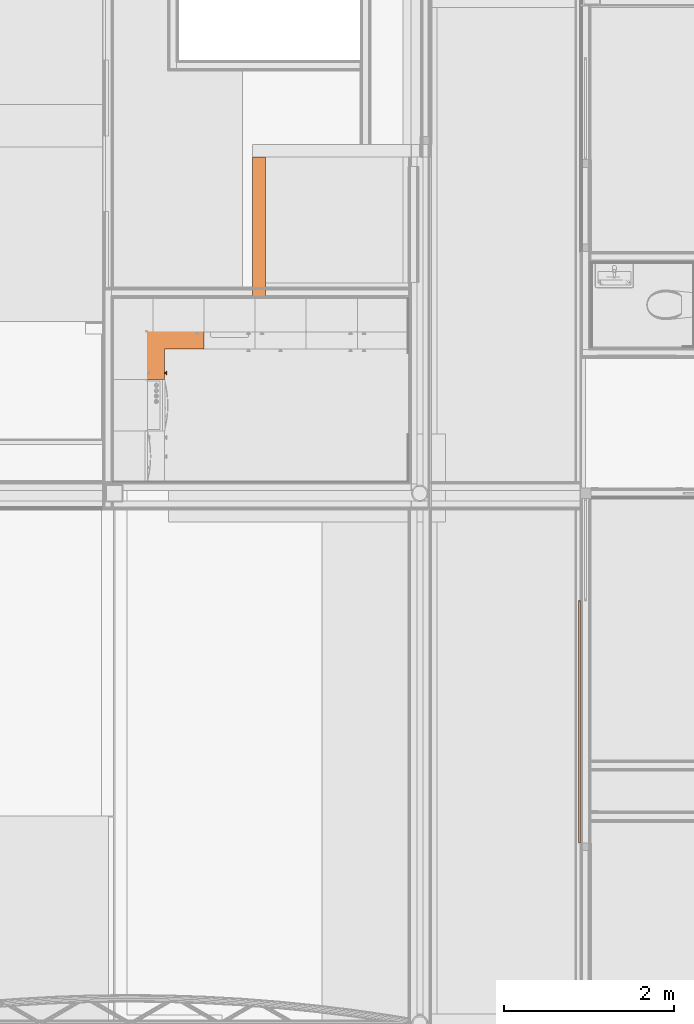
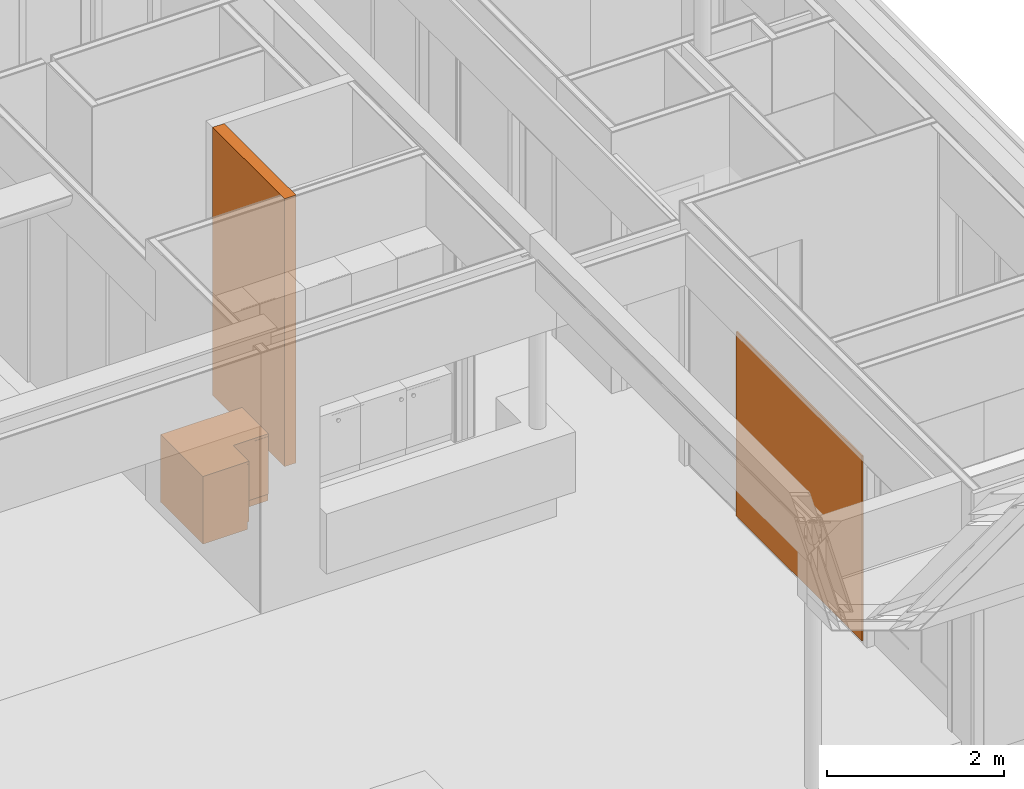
# One storey, part 155 of 165: 3 proxies.
"""IFC2X3 building model written with IfcOpenShell, lengths in millimetres."""

import ifcopenshell
import ifcopenshell.guid

model = None  # the IFC model being written
_history = None  # IfcOwnerHistory: only IFC2X3 demands one
_inside = {}  # id of a spatial element -> (the spatial element, [elements in it])
_under = {}  # id of a project, library or spatial element -> (it, [spatial elements below it])
_declared = {}  # id of a project -> (the project, [libraries it declares])
_typed = {}  # id of a type object -> (the type object, [elements of that type])
_made_of = {}  # id of a material, layer set ... -> (it, [elements and type objects made of it])


def new_model(schema):
    """Start an empty IFC model of exactly this schema.

    Asked for "IFC4X3", IfcOpenShell would pick the latest addendum, in which some entities
    have other attributes; the version numbers below select the first issue.
    IFC2X3 requires an IfcOwnerHistory on every rooted entity: one is made here for all.
    """
    global model, _history
    if schema == "IFC4X3":
        model = ifcopenshell.file(schema_version=(4, 3, 0, 0))
    else:
        model = ifcopenshell.file(schema=schema)
    _inside.clear()
    _under.clear()
    _declared.clear()
    _typed.clear()
    _made_of.clear()
    _history = None
    if model.schema == "IFC2X3":
        org = make("IfcOrganization", Name="unknown")
        user = make(
            "IfcPersonAndOrganization",
            ThePerson=make("IfcPerson", FamilyName="unknown"),
            TheOrganization=org,
        )
        app = make(
            "IfcApplication",
            ApplicationDeveloper=org,
            Version="unknown",
            ApplicationFullName="unknown",
            ApplicationIdentifier="unknown",
        )
        _history = make(
            "IfcOwnerHistory",
            OwningUser=user,
            OwningApplication=app,
            ChangeAction="ADDED",
            CreationDate=0,
        )
    return model


def make(cls, **values):
    """One entity of the class cls with the attributes given. An attribute that is None is left unset."""
    return model.create_entity(
        cls, **{name: value for name, value in values.items() if value is not None}
    )


def entity(cls, *values):
    """Any entity or typed value of the class cls, its attributes in the order of the schema. None: left unset."""
    e = model.create_entity(cls)
    for i, value in enumerate(values):
        if value is not None:
            e[i] = value
    return e


def rooted(cls, **values):
    """An entity with a GlobalId (a new one), such as an element, a storey or a relation."""
    return make(cls, GlobalId=ifcopenshell.guid.new(), OwnerHistory=_history, **values)


def si_unit(unit_type, name, prefix=None):
    """IfcSIUnit, for example si_unit("LENGTHUNIT", "METRE", prefix="MILLI")."""
    return make("IfcSIUnit", UnitType=unit_type, Prefix=prefix, Name=name)


def converted_unit(unit_type, name, factor, base, dimensions=None, offset=None):
    """IfcConversionBasedUnit, such as the inch: factor (a typed value) times the base unit."""
    return make(
        "IfcConversionBasedUnit"
        if offset is None
        else "IfcConversionBasedUnitWithOffset",
        ConversionOffset=offset,
        Dimensions=None
        if dimensions is None
        else entity("IfcDimensionalExponents", *dimensions),
        UnitType=unit_type,
        Name=name,
        ConversionFactor=make(
            "IfcMeasureWithUnit", ValueComponent=factor, UnitComponent=base
        ),
    )


def derived_unit(unit_type, elements):
    """IfcDerivedUnit: a product of units, each with its exponent."""
    return make(
        "IfcDerivedUnit",
        Elements=[
            make("IfcDerivedUnitElement", Unit=unit, Exponent=power)
            for unit, power in elements
        ],
        UnitType=unit_type,
    )


def money_unit(currency):
    """IfcMonetaryUnit."""
    return make("IfcMonetaryUnit", Currency=currency)


def assignment(units):
    """IfcUnitAssignment: the units of a project."""
    return None if units is None else make("IfcUnitAssignment", Units=units)


def point(xyz):
    """IfcCartesianPoint."""
    return None if xyz is None else make("IfcCartesianPoint", Coordinates=xyz)


def direction(xyz):
    """IfcDirection."""
    return None if xyz is None else make("IfcDirection", DirectionRatios=xyz)


def frame(location, z_axis=None, x_axis=None):
    """IfcAxis2Placement3D, a coordinate frame: its origin and axes. An axis left out is left unset."""
    return make(
        "IfcAxis2Placement3D",
        Location=point(location),
        Axis=direction(z_axis),
        RefDirection=direction(x_axis),
    )


def origin_with_axes():
    """The frame at (0, 0, 0) with the z axis (0, 0, 1) and the x axis (1, 0, 0) written out."""
    return frame((0.0, 0.0, 0.0), z_axis=(0.0, 0.0, 1.0), x_axis=(1.0, 0.0, 0.0))


def place(relative_to, where):
    """IfcLocalPlacement: puts the frame where relative to a parent placement (None: the world)."""
    return make(
        "IfcLocalPlacement", PlacementRelTo=relative_to, RelativePlacement=where
    )


def context(
    kind, dimensions, precision=None, world=None, true_north=None, identifier=None
):
    """IfcGeometricRepresentationContext, for example the 3D "Model" context."""
    return make(
        "IfcGeometricRepresentationContext",
        ContextIdentifier=identifier,
        ContextType=kind,
        CoordinateSpaceDimension=dimensions,
        Precision=precision,
        WorldCoordinateSystem=world,
        TrueNorth=true_north,
    )


def subcontext(parent, identifier, kind, view, scale=None):
    """IfcGeometricRepresentationSubContext, for example "Body" below "Model"."""
    return make(
        "IfcGeometricRepresentationSubContext",
        ContextIdentifier=identifier,
        ContextType=kind,
        ParentContext=parent,
        TargetScale=scale,
        TargetView=view,
    )


def project(units=None, contexts=None):
    """IfcProject with its units and contexts."""
    return rooted(
        "IfcProject",
        Name="project",
        RepresentationContexts=contexts,
        UnitsInContext=assignment(units),
    )


def spatial(cls, under=None, at=None, **own):
    """A site, building, storey or space (cls), placed at a placement, below another one or the project."""
    s = rooted(cls, ObjectPlacement=at, **own)
    if under is not None:
        _under.setdefault(under.id(), (under, []))[1].append(s)
    return s


def faces_of(points, faces, orient=None, outer=None):
    """IfcFace entities. A face is a list of loops; a loop is a list of indices into points, from 0.

    orient and outer hold one flag for each loop. By default every Orientation is true, the
    first loop of a face is its IfcFaceOuterBound and the others are IfcFaceBound.
    """
    made = []
    for i, loops in enumerate(faces):
        bounds = []
        for j, loop in enumerate(loops):
            is_outer = j == 0 if outer is None else outer[i][j]
            bounds.append(
                make(
                    "IfcFaceOuterBound" if is_outer else "IfcFaceBound",
                    Bound=make("IfcPolyLoop", Polygon=[points[k] for k in loop]),
                    Orientation=True if orient is None else orient[i][j],
                )
            )
        made.append(make("IfcFace", Bounds=bounds))
    return made


def faceted_brep(points, faces, orient=None, outer=None, voids=None):
    """IfcFacetedBrep: a solid bounded by flat faces; with voids (closed shells), ...WithVoids."""
    shared = [point(p) for p in points]
    hull = make("IfcClosedShell", CfsFaces=faces_of(shared, faces, orient, outer))
    if voids is None:
        return make("IfcFacetedBrep", Outer=hull)
    return make(
        "IfcFacetedBrepWithVoids",
        Outer=hull,
        Voids=[
            make(cls, CfsFaces=faces_of(shared, fs, o, b)) for cls, fs, o, b in voids
        ],
    )


def shape(context_of_items, identifier, shape_type, items):
    """IfcShapeRepresentation: the items that make up one representation, for example the "Body"."""
    return make(
        "IfcShapeRepresentation",
        ContextOfItems=context_of_items,
        RepresentationIdentifier=identifier,
        RepresentationType=shape_type,
        Items=items,
    )


def material(Name=None, Category=None):
    """IfcMaterial."""
    return make("IfcMaterial", Name=Name, Category=Category)


def made_of(thing, what):
    """Note that an element or type object is made of a material, layer set ...; save() writes the relation."""
    if what is not None:
        _made_of.setdefault(what.id(), (what, []))[1].append(thing)
    return thing


def type_object(cls, material=None, **own):
    """A type object (cls), such as IfcWallType, which elements share."""
    return made_of(rooted(cls, **own), material)


def element(
    cls,
    number,
    at=None,
    inside=None,
    cuts=None,
    type_object=None,
    material=None,
    context=None,
    identifier="Body",
    shape_type=None,
    held_by="IfcProductDefinitionShape",
    body=None,
    shapes=None,
    **own,
):
    """One element of the class cls, such as IfcWall. Its Tag is "e" and its number.

    at: its placement. inside: the storey or other place that contains it. cuts: it is an
    opening in that element (IfcRelVoidsElement). A single representation is given by context,
    identifier, shape_type and body (its items); several are given by shapes. held_by: the class
    of the entity that holds the representations. save() writes the other relations.
    """
    e = rooted(cls, Tag="e%d" % number, ObjectPlacement=at, **own)
    if body is not None:
        shapes = [shape(context, identifier, shape_type, body)]
    if shapes is not None:
        e.Representation = make(held_by, Representations=shapes)
    if inside is not None:
        _inside.setdefault(inside.id(), (inside, []))[1].append(e)
    if cuts is not None:
        rooted(
            "IfcRelVoidsElement", RelatingBuildingElement=cuts, RelatedOpeningElement=e
        )
    if type_object is not None:
        _typed.setdefault(type_object.id(), (type_object, []))[1].append(e)
    return made_of(e, material)


def aggregate(whole, parts):
    """IfcRelAggregates: a whole, such as a stair, and the parts it consists of."""
    return rooted("IfcRelAggregates", RelatingObject=whole, RelatedObjects=parts)


def save(model, path):
    """Write the relations noted so far, then the file.

    IfcRelAggregates (storeys below a building ...), IfcRelContainedInSpatialStructure (elements
    in a storey), IfcRelDefinesByType, IfcRelAssociatesMaterial and IfcRelDeclares: one each for
    every whole, place, type object, material and project.
    """
    for whole, parts in _under.values():
        aggregate(whole, parts)
    for where, things in _inside.values():
        rooted(
            "IfcRelContainedInSpatialStructure",
            RelatedElements=things,
            RelatingStructure=where,
        )
    for kind, things in _typed.values():
        rooted("IfcRelDefinesByType", RelatedObjects=things, RelatingType=kind)
    for what, things in _made_of.values():
        rooted("IfcRelAssociatesMaterial", RelatedObjects=things, RelatingMaterial=what)
    for by, libraries in _declared.values():
        rooted("IfcRelDeclares", RelatingContext=by, RelatedDefinitions=libraries)
    model.write(path)


model = new_model("IFC2X3")

# Units and contexts
model_context = context("Model", 3, precision=0.01, world=origin_with_axes(), true_north=direction((0.0, 1.0)))
body_context = subcontext(model_context, "Body", "Model", "MODEL_VIEW")
ifc_project = project(units=[si_unit("LENGTHUNIT", "METRE", prefix="MILLI"), si_unit("AREAUNIT", "SQUARE_METRE"), si_unit("VOLUMEUNIT", "CUBIC_METRE"), converted_unit("PLANEANGLEUNIT", "DEGREE", entity("IfcPlaneAngleMeasure", 0.0174532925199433), si_unit("PLANEANGLEUNIT", "RADIAN"), dimensions=[0, 0, 0, 0, 0, 0, 0]), money_unit("EUR"), converted_unit("TIMEUNIT", "Year", entity("IfcTimeMeasure", 31556926.0), si_unit("TIMEUNIT", "SECOND"), dimensions=[0, 0, 1, 0, 0, 0, 0]), si_unit("MASSUNIT", "GRAM", prefix="KILO"), si_unit("THERMODYNAMICTEMPERATUREUNIT", "DEGREE_CELSIUS"), si_unit("LUMINOUSINTENSITYUNIT", "LUMEN"), si_unit("ENERGYUNIT", "JOULE", prefix="MEGA"), derived_unit("THERMALCONDUCTANCEUNIT", [(si_unit("POWERUNIT", "WATT"), 1), (si_unit("LENGTHUNIT", "METRE"), -1), (si_unit("THERMODYNAMICTEMPERATUREUNIT", "KELVIN"), -1)]), derived_unit("SPECIFICHEATCAPACITYUNIT", [(si_unit("ENERGYUNIT", "JOULE"), 1), (si_unit("MASSUNIT", "GRAM", prefix="KILO"), -1), (si_unit("THERMODYNAMICTEMPERATUREUNIT", "KELVIN"), -1)]), derived_unit("MASSDENSITYUNIT", [(si_unit("MASSUNIT", "GRAM", prefix="KILO"), 1), (si_unit("VOLUMEUNIT", "CUBIC_METRE"), -1)])], contexts=[model_context])

# Site, building, storey
site_placement = place(None, origin_with_axes())
site = spatial("IfcSite", under=ifc_project, at=site_placement, Name="Site", CompositionType="ELEMENT")
building_placement = place(site_placement, origin_with_axes())
building = spatial("IfcBuilding", under=site, at=building_placement, Name="Naam gebouw", CompositionType="ELEMENT")
storey_placement = place(building_placement, origin_with_axes())
storey = spatial("IfcBuildingStorey", under=building, at=storey_placement, Name="Begane grond", CompositionType="ELEMENT", Elevation=0.0)

# Proxies
ifc_material_1 = material(Name="Steen - Kalkzandsteen C")
building_element_proxy_type_1 = type_object("IfcBuildingElementProxyType", Name="KZ 150 150", PredefinedType="NOTDEFINED")
proxy_1_placement = place(storey_placement, frame((22684.99903999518, 14759.99770206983, -100.0), z_axis=(0.0, 0.0, 1.0), x_axis=(0.0, -1.0, 0.0)))
element("IfcBuildingElementProxy", 1, at=proxy_1_placement, inside=storey, type_object=building_element_proxy_type_1, material=ifc_material_1, Name="f1 Gebonden met kalk_Wand-x", context=body_context, shape_type="Brep", body=[
    faceted_brep([(0.0, -149.9999999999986, 0.0), (0.0, -149.9999999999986, 3700.0), (0.0, 0.0, 3700.0), (0.0, 0.0, 0.0), (1630.000000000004, -149.9999999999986, 0.0), (1630.000000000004, -149.9999999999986, 3700.0), (1630.000000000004, 0.0, 3700.0), (1480.000000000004, 0.0, 3700.0), (1630.000000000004, 0.0, 0.0)], [[[0, 1, 2, 3]], [[4, 5, 1, 0]], [[6, 7, 2, 1, 5]], [[2, 7, 6, 8, 3]], [[3, 8, 4, 0]], [[8, 6, 5, 4]]]),
])
ifc_material_2 = material(Name="ALG - ALGEMEEN")
building_element_proxy_type_2 = type_object("IfcBuildingElementProxyType", Name="ALG - ALGEMEEN 20", PredefinedType="NOTDEFINED")
proxy_2_placement = place(storey_placement, frame((26386.00000000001, 9547.500110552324, 50.0), z_axis=(0.0, 0.0, 1.0), x_axis=(0.0, -1.0, 0.0)))
element("IfcBuildingElementProxy", 2, at=proxy_2_placement, inside=storey, type_object=building_element_proxy_type_2, material=ifc_material_2, Name="_Wand-x", context=body_context, shape_type="Brep", body=[
    faceted_brep([(0.0, -19.99999999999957, 2550.0), (2843.500110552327, -19.99999999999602, 2550.0), (2843.500110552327, 0.0, 2550.0), (0.0, 0.0, 2550.0), (0.0, -19.99999999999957, 0.0), (2843.500110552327, -19.99999999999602, 0.0), (2843.500110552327, 0.0, 0.0), (0.0, 0.0, 0.0)], [[[0, 1, 2, 3]], [[4, 5, 1, 0]], [[2, 1, 5, 6]], [[3, 2, 6, 7]], [[4, 0, 3, 7]], [[7, 6, 5, 4]]]),
])
building_element_proxy_type_3 = type_object("IfcBuildingElementProxyType", Name="Onderkast hoek L 26", PredefinedType="NOTDEFINED")
proxy_3_placement = place(storey_placement, frame((20899.99920567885, 13104.99822616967, 0.0), z_axis=(0.0, 0.0, 1.0), x_axis=(0.0, 1.0, 0.0)))
element("IfcBuildingElementProxy", 3, at=proxy_3_placement, inside=storey, type_object=building_element_proxy_type_3, Name="_Leeg", context=body_context, shape_type="Brep", body=[
    faceted_brep([(0.0, -1064.999834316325, 900.0), (0.0, -1064.999834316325, 935.0), (-600.0005240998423, -1064.999834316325, 935.0), (-600.0005240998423, -1064.999834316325, 900.0), (0.0, -600.0024687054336, 900.0), (0.0, -600.0024687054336, 935.0), (-600.0005240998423, -600.0024687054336, 935.0), (-600.0005240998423, -600.0024687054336, 900.0)], [[[0, 1, 2, 3]], [[4, 5, 1, 0]], [[1, 5, 6, 2]], [[3, 2, 6, 7]], [[0, 3, 7, 4]], [[7, 6, 5, 4]]]),
    faceted_brep([(0.0, -600.0024687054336, 900.0), (0.0, -600.0024687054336, 935.0), (-959.9994094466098, -600.0024687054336, 935.0), (-959.9994094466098, -600.0024687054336, 900.0), (0.0, 0.0, 900.0), (0.0, 0.0, 935.0), (-959.9994094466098, 0.0, 935.0), (-959.9994094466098, 0.0, 900.0)], [[[0, 1, 2, 3]], [[4, 5, 1, 0]], [[1, 5, 6, 2]], [[3, 2, 6, 7]], [[0, 3, 7, 4]], [[7, 6, 5, 4]]]),
    faceted_brep([(-18.0, -1046.999834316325, 491.0), (-18.0, -1046.999834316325, 509.0), (-582.0005240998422, -1046.999834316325, 509.0), (-582.0005240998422, -1046.999834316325, 491.0), (-18.0, -18.0, 491.0), (-18.0, -18.0, 509.0), (-941.9994094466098, -17.99999999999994, 509.0), (-941.9994094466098, -582.0024687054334, 509.0), (-582.0005240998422, -582.0024687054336, 509.0), (-582.0005240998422, -582.0024687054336, 491.0), (-941.9994094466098, -582.0024687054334, 491.0), (-941.9994094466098, -17.99999999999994, 491.0)], [[[0, 1, 2, 3]], [[4, 5, 1, 0]], [[1, 5, 6, 7, 8, 2]], [[3, 2, 8, 9]], [[0, 3, 9, 10, 11, 4]], [[11, 6, 5, 4]], [[10, 7, 6, 11]], [[9, 8, 7, 10]]]),
    faceted_brep([(-892.8182171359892, -600.0024687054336, 817.9162218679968), (-893.0005240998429, -600.0024687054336, 820.0), (-892.8182171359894, -600.0024687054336, 822.0837781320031), (-892.2768355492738, -600.0024687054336, 824.1042417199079), (-891.3928289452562, -600.0024687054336, 826.0), (-890.1930574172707, -600.0024687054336, 827.7134513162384), (-888.7139754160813, -600.0024687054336, 829.1925333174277), (-887.0005240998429, -600.0024687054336, 830.3923048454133), (-885.1047658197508, -600.0024687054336, 831.2763114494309), (-883.084302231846, -600.0024687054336, 831.8176930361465), (-881.0005240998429, -600.0024687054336, 832.0), (-878.9167459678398, -600.0024687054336, 831.8176930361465), (-876.8962823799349, -600.0024687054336, 831.2763114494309), (-875.0005240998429, -600.0024687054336, 830.3923048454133), (-873.2870727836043, -600.0024687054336, 829.1925333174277), (-871.8079907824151, -600.0024687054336, 827.7134513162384), (-870.6082192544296, -600.0024687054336, 826.0), (-869.724212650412, -600.0024687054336, 824.1042417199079), (-869.1828310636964, -600.0024687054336, 822.0837781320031), (-869.0005240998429, -600.0024687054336, 820.0), (-869.1828310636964, -600.0024687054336, 817.9162218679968), (-869.724212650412, -600.0024687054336, 815.895758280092), (-870.6082192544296, -600.0024687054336, 814.0), (-871.8079907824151, -600.0024687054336, 812.2865486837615), (-873.2870727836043, -600.0024687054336, 810.8074666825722), (-875.0005240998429, -600.0024687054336, 809.6076951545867), (-876.8962823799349, -600.0024687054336, 808.7236885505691), (-878.9167459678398, -600.0024687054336, 808.1823069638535), (-881.0005240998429, -600.0024687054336, 807.9999999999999), (-883.084302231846, -600.0024687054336, 808.1823069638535), (-885.1047658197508, -600.0024687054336, 808.7236885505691), (-887.0005240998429, -600.0024687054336, 809.6076951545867), (-888.7139754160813, -600.0024687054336, 810.8074666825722), (-890.1930574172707, -600.0024687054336, 812.2865486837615), (-891.392828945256, -600.0024687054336, 814.0), (-892.2768355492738, -600.0024687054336, 815.895758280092), (-892.8182171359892, -620.0024687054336, 817.9162218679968), (-893.0005240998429, -620.0024687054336, 820.0), (-892.8182171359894, -620.0024687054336, 822.0837781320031), (-892.2768355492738, -620.0024687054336, 824.1042417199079), (-891.3928289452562, -620.0024687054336, 826.0), (-890.1930574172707, -620.0024687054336, 827.7134513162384), (-888.7139754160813, -620.0024687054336, 829.1925333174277), (-887.0005240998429, -620.0024687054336, 830.3923048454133), (-885.1047658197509, -620.0024687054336, 831.2763114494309), (-883.0843022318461, -620.0024687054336, 831.8176930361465), (-881.0005240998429, -620.0024687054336, 832.0), (-878.9167459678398, -620.0024687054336, 831.8176930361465), (-876.8962823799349, -620.0024687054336, 831.2763114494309), (-875.0005240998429, -620.0024687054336, 830.3923048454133), (-873.2870727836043, -620.0024687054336, 829.1925333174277), (-871.8079907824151, -620.0024687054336, 827.7134513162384), (-870.6082192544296, -620.0024687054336, 826.0), (-869.724212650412, -620.0024687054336, 824.1042417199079), (-869.1828310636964, -620.0024687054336, 822.0837781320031), (-869.0005240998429, -620.0024687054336, 820.0), (-869.1828310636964, -620.0024687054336, 817.9162218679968), (-869.724212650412, -620.0024687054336, 815.895758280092), (-870.6082192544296, -620.0024687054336, 814.0), (-871.8079907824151, -620.0024687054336, 812.2865486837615), (-873.2870727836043, -620.0024687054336, 810.8074666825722), (-875.0005240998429, -620.0024687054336, 809.6076951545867), (-876.8962823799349, -620.0024687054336, 808.7236885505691), (-878.9167459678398, -620.0024687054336, 808.1823069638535), (-881.0005240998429, -620.0024687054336, 807.9999999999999), (-883.084302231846, -620.0024687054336, 808.1823069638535), (-885.1047658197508, -620.0024687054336, 808.7236885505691), (-887.0005240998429, -620.0024687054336, 809.6076951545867), (-888.7139754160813, -620.0024687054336, 810.8074666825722), (-890.1930574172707, -620.0024687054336, 812.2865486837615), (-891.392828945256, -620.0024687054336, 814.0), (-892.2768355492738, -620.0024687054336, 815.895758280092)], [[[0, 1, 2, 3, 4, 5, 6, 7, 8, 9, 10, 11, 12, 13, 14, 15, 16, 17, 18, 19, 20, 21, 22, 23, 24, 25, 26, 27, 28, 29, 30, 31, 32, 33, 34, 35]], [[0, 36, 37, 1]], [[1, 37, 38, 2]], [[2, 38, 39, 3]], [[3, 39, 40, 4]], [[4, 40, 41, 5]], [[5, 41, 42, 6]], [[6, 42, 43, 7]], [[7, 43, 44, 8]], [[8, 44, 45, 9]], [[9, 45, 46, 10]], [[10, 46, 47, 11]], [[11, 47, 48, 12]], [[12, 48, 49, 13]], [[13, 49, 50, 14]], [[14, 50, 51, 15]], [[15, 51, 52, 16]], [[16, 52, 53, 17]], [[17, 53, 54, 18]], [[18, 54, 55, 19]], [[19, 55, 56, 20]], [[20, 56, 57, 21]], [[21, 57, 58, 22]], [[22, 58, 59, 23]], [[23, 59, 60, 24]], [[24, 60, 61, 25]], [[25, 61, 62, 26]], [[26, 62, 63, 27]], [[27, 63, 64, 28]], [[28, 64, 65, 29]], [[29, 65, 66, 30]], [[30, 66, 67, 31]], [[31, 67, 68, 32]], [[32, 68, 69, 33]], [[33, 69, 70, 34]], [[34, 70, 71, 35]], [[35, 71, 36, 0]], [[36, 71, 70, 69, 68, 67, 66, 65, 64, 63, 62, 61, 60, 59, 58, 57, 56, 55, 54, 53, 52, 51, 50, 49, 48, 47, 46, 45, 44, 43, 42, 41, 40, 39, 38, 37]]]),
    faceted_brep([(-904.6359101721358, -620.0024687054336, 815.8324437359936), (-905.0005240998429, -620.0024687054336, 820.0), (-904.6359101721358, -620.0024687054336, 824.1675562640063), (-903.5531469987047, -620.0024687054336, 828.2084834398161), (-901.7851337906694, -620.0024687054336, 832.0), (-899.3855907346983, -620.0024687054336, 835.4269026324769), (-896.4274267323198, -620.0024687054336, 838.3850666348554), (-893.0005240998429, -620.0024687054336, 840.7846096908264), (-889.209007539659, -620.0024687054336, 842.5526228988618), (-885.1680803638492, -620.0024687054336, 843.6353860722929), (-881.0005240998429, -620.0024687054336, 844.0), (-876.8329678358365, -620.0024687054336, 843.6353860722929), (-872.7920406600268, -620.0024687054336, 842.5526228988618), (-869.0005240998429, -620.0024687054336, 840.7846096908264), (-865.5736214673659, -620.0024687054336, 838.3850666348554), (-862.6154574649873, -620.0024687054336, 835.4269026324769), (-860.2159144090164, -620.0024687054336, 832.0), (-858.4479012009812, -620.0024687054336, 828.2084834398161), (-857.3651380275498, -620.0024687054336, 824.1675562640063), (-857.0005240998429, -620.0024687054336, 820.0), (-857.3651380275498, -620.0024687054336, 815.8324437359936), (-858.4479012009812, -620.0024687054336, 811.7915165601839), (-860.2159144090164, -620.0024687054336, 807.9999999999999), (-862.6154574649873, -620.0024687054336, 804.573097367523), (-865.5736214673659, -620.0024687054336, 801.6149333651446), (-869.0005240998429, -620.0024687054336, 799.2153903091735), (-872.7920406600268, -620.0024687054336, 797.4473771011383), (-876.8329678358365, -620.0024687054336, 796.364613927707), (-881.0005240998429, -620.0024687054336, 796.0), (-885.1680803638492, -620.0024687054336, 796.364613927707), (-889.209007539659, -620.0024687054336, 797.4473771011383), (-893.0005240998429, -620.0024687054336, 799.2153903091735), (-896.4274267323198, -620.0024687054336, 801.6149333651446), (-899.3855907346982, -620.0024687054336, 804.573097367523), (-901.7851337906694, -620.0024687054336, 807.9999999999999), (-903.5531469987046, -620.0024687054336, 811.7915165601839), (-904.6359101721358, -630.0024687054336, 815.8324437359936), (-905.0005240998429, -630.0024687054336, 820.0), (-904.6359101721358, -630.0024687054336, 824.1675562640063), (-903.5531469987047, -630.0024687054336, 828.2084834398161), (-901.7851337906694, -630.0024687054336, 832.0), (-899.3855907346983, -630.0024687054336, 835.4269026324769), (-896.4274267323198, -630.0024687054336, 838.3850666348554), (-893.0005240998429, -630.0024687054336, 840.7846096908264), (-889.209007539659, -630.0024687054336, 842.5526228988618), (-885.1680803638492, -630.0024687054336, 843.6353860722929), (-881.0005240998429, -630.0024687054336, 844.0), (-876.8329678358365, -630.0024687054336, 843.6353860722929), (-872.7920406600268, -630.0024687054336, 842.5526228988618), (-869.0005240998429, -630.0024687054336, 840.7846096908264), (-865.5736214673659, -630.0024687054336, 838.3850666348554), (-862.6154574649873, -630.0024687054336, 835.4269026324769), (-860.2159144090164, -630.0024687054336, 832.0), (-858.4479012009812, -630.0024687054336, 828.2084834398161), (-857.3651380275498, -630.0024687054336, 824.1675562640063), (-857.0005240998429, -630.0024687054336, 820.0), (-857.3651380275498, -630.0024687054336, 815.8324437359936), (-858.4479012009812, -630.0024687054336, 811.7915165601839), (-860.2159144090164, -630.0024687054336, 807.9999999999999), (-862.6154574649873, -630.0024687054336, 804.573097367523), (-865.5736214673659, -630.0024687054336, 801.6149333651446), (-869.0005240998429, -630.0024687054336, 799.2153903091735), (-872.7920406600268, -630.0024687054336, 797.4473771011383), (-876.8329678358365, -630.0024687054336, 796.364613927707), (-881.0005240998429, -630.0024687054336, 796.0), (-885.1680803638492, -630.0024687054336, 796.364613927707), (-889.209007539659, -630.0024687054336, 797.4473771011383), (-893.0005240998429, -630.0024687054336, 799.2153903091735), (-896.4274267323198, -630.0024687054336, 801.6149333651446), (-899.3855907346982, -630.0024687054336, 804.573097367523), (-901.7851337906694, -630.0024687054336, 807.9999999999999), (-903.5531469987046, -630.0024687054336, 811.7915165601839)], [[[0, 1, 2, 3, 4, 5, 6, 7, 8, 9, 10, 11, 12, 13, 14, 15, 16, 17, 18, 19, 20, 21, 22, 23, 24, 25, 26, 27, 28, 29, 30, 31, 32, 33, 34, 35]], [[0, 36, 37, 1]], [[1, 37, 38, 2]], [[2, 38, 39, 3]], [[3, 39, 40, 4]], [[4, 40, 41, 5]], [[5, 41, 42, 6]], [[6, 42, 43, 7]], [[7, 43, 44, 8]], [[8, 44, 45, 9]], [[9, 45, 46, 10]], [[10, 46, 47, 11]], [[11, 47, 48, 12]], [[12, 48, 49, 13]], [[13, 49, 50, 14]], [[14, 50, 51, 15]], [[15, 51, 52, 16]], [[16, 52, 53, 17]], [[17, 53, 54, 18]], [[18, 54, 55, 19]], [[19, 55, 56, 20]], [[20, 56, 57, 21]], [[21, 57, 58, 22]], [[22, 58, 59, 23]], [[23, 59, 60, 24]], [[24, 60, 61, 25]], [[25, 61, 62, 26]], [[26, 62, 63, 27]], [[27, 63, 64, 28]], [[28, 64, 65, 29]], [[29, 65, 66, 30]], [[30, 66, 67, 31]], [[31, 67, 68, 32]], [[32, 68, 69, 33]], [[33, 69, 70, 34]], [[34, 70, 71, 35]], [[35, 71, 36, 0]], [[36, 71, 70, 69, 68, 67, 66, 65, 64, 63, 62, 61, 60, 59, 58, 57, 56, 55, 54, 53, 52, 51, 50, 49, 48, 47, 46, 45, 44, 43, 42, 41, 40, 39, 38, 37]]]),
    faceted_brep([(-601.0005240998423, -582.0024687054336, 101.0), (-601.0005240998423, -600.0024687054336, 101.0), (-958.9994094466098, -600.0024687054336, 101.0), (-958.9994094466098, -582.0024687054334, 101.0), (-601.0005240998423, -582.0024687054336, 899.0), (-601.0005240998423, -600.0024687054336, 899.0), (-958.9994094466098, -600.0024687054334, 899.0), (-958.9994094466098, -582.0024687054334, 899.0)], [[[0, 1, 2, 3]], [[4, 5, 1, 0]], [[1, 5, 6, 2]], [[3, 2, 6, 7]], [[0, 3, 7, 4]], [[7, 6, 5, 4]]]),
    faceted_brep([(-582.0005240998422, -601.0024687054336, 101.0), (-582.0005240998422, -1063.999834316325, 101.0), (-600.0005240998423, -1063.999834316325, 101.0), (-600.0005240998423, -601.0024687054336, 101.0), (-582.0005240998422, -601.0024687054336, 899.0), (-582.0005240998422, -1063.999834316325, 899.0), (-600.0005240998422, -1063.999834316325, 899.0), (-600.0005240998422, -601.0024687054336, 899.0)], [[[0, 1, 2, 3]], [[0, 4, 5, 1]], [[1, 5, 6, 2]], [[3, 2, 6, 7]], [[4, 0, 3, 7]], [[5, 4, 7, 6]]]),
    faceted_brep([(0.0, -1046.999834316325, 100.0), (0.0, -1046.999834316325, 118.0), (-582.0005240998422, -1046.999834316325, 118.0), (-582.0005240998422, -1046.999834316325, 100.0), (0.0, 0.0, 100.0), (0.0, 0.0, 118.0), (-941.9994094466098, 0.0, 118.0), (-941.9994094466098, -582.0024687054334, 118.0), (-582.0005240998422, -582.0024687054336, 118.0), (-582.0005240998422, -582.0024687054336, 100.0), (-941.9994094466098, -582.0024687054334, 100.0), (-941.9994094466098, 0.0, 100.0)], [[[0, 1, 2, 3]], [[4, 5, 1, 0]], [[1, 5, 6, 7, 8, 2]], [[3, 2, 8, 9]], [[0, 3, 9, 10, 11, 4]], [[11, 6, 5, 4]], [[10, 7, 6, 11]], [[9, 8, 7, 10]]]),
    faceted_brep([(-582.0005240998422, -1046.999834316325, 882.0), (-582.0005240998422, -582.0024687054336, 882.0), (-522.0005240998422, -522.0024687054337, 882.0), (-522.0005240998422, -1046.999834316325, 882.0), (-582.0005240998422, -1046.999834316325, 900.0), (-582.0005240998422, -582.0024687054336, 900.0), (-522.0005240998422, -522.0024687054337, 900.0), (-522.0005240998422, -1046.999834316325, 900.0)], [[[0, 1, 2, 3]], [[4, 5, 1, 0]], [[1, 5, 6, 2]], [[3, 2, 6, 7]], [[0, 3, 7, 4]], [[7, 6, 5, 4]]]),
    faceted_brep([(-582.0005240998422, -582.0024687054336, 882.0), (-941.9994094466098, -582.0024687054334, 882.0), (-941.9994094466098, -522.0024687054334, 882.0), (-522.0005240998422, -522.0024687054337, 882.0), (-582.0005240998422, -582.0024687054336, 900.0), (-941.9994094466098, -582.0024687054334, 900.0), (-941.9994094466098, -522.0024687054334, 900.0), (-522.0005240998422, -522.0024687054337, 900.0)], [[[0, 1, 2, 3]], [[4, 5, 1, 0]], [[1, 5, 6, 2]], [[3, 2, 6, 7]], [[0, 3, 7, 4]], [[7, 6, 5, 4]]]),
    faceted_brep([(-941.9994094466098, 0.0, 882.0), (0.0, 0.0, 882.0), (-60.00000000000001, -60.00000000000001, 882.0), (-941.9994094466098, -59.99999999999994, 882.0), (-941.9994094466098, 0.0, 900.0), (0.0, 0.0, 900.0), (-60.00000000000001, -60.00000000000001, 900.0), (-941.9994094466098, -59.99999999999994, 900.0)], [[[0, 1, 2, 3]], [[4, 5, 1, 0]], [[1, 5, 6, 2]], [[3, 2, 6, 7]], [[0, 3, 7, 4]], [[7, 6, 5, 4]]]),
    faceted_brep([(0.0, 0.0, 882.0), (0.0, -1046.999834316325, 882.0), (-60.0, -1046.999834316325, 882.0), (-60.00000000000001, -60.00000000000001, 882.0), (0.0, 0.0, 900.0), (0.0, -1046.999834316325, 900.0), (-60.0, -1046.999834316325, 900.0), (-60.00000000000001, -60.00000000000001, 900.0)], [[[0, 1, 2, 3]], [[4, 5, 1, 0]], [[1, 5, 6, 2]], [[3, 2, 6, 7]], [[0, 3, 7, 4]], [[7, 6, 5, 4]]]),
    faceted_brep([(0.0, -1064.999834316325, 100.0), (0.0, -1064.999834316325, 900.0), (-582.0005240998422, -1064.999834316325, 900.0), (-582.0005240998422, -1064.999834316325, 100.0), (0.0, -1046.999834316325, 100.0), (0.0, -1046.999834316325, 900.0), (-582.0005240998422, -1046.999834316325, 900.0), (-582.0005240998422, -1046.999834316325, 100.0)], [[[0, 1, 2, 3]], [[4, 5, 1, 0]], [[1, 5, 6, 2]], [[3, 2, 6, 7]], [[0, 3, 7, 4]], [[7, 6, 5, 4]]]),
    faceted_brep([(0.0, 0.0, 118.0), (0.0, 0.0, 882.0), (0.0, -1046.999834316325, 882.0), (0.0, -1046.999834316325, 118.0), (-18.0, -18.0, 118.0), (-18.0, -18.0, 882.0), (-18.0, -1046.999834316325, 882.0), (-18.0, -1046.999834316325, 118.0)], [[[0, 1, 2, 3]], [[4, 5, 1, 0]], [[1, 5, 6, 2]], [[3, 2, 6, 7]], [[0, 3, 7, 4]], [[7, 6, 5, 4]]]),
    faceted_brep([(-959.9994094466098, -582.0024687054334, 100.0), (-959.9994094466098, -582.0024687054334, 900.0), (-959.9994094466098, 0.0, 900.0), (-959.9994094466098, 0.0, 100.0), (-941.9994094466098, -582.0024687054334, 100.0), (-941.9994094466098, -582.0024687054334, 900.0), (-941.9994094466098, 0.0, 900.0), (-941.9994094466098, 0.0, 100.0)], [[[0, 1, 2, 3]], [[4, 5, 1, 0]], [[1, 5, 6, 2]], [[3, 2, 6, 7]], [[0, 3, 7, 4]], [[7, 6, 5, 4]]]),
    faceted_brep([(-941.9994094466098, 0.0, 118.0), (-941.9994094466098, 0.0, 882.0), (0.0, 0.0, 882.0), (0.0, 0.0, 118.0), (-941.9994094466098, -17.99999999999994, 118.0), (-941.9994094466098, -17.99999999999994, 882.0), (-18.00000000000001, -18.0, 882.0), (-18.00000000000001, -18.0, 118.0)], [[[0, 1, 2, 3]], [[4, 5, 1, 0]], [[1, 5, 6, 2]], [[3, 2, 6, 7]], [[0, 3, 7, 4]], [[7, 6, 5, 4]]]),
    faceted_brep([(0.0, -1064.999834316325, 0.0), (0.0, -1064.999834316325, 100.0), (-582.0005240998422, -1064.999834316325, 100.0), (-582.0005240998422, -1064.999834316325, 0.0), (0.0, 0.0, 0.0), (0.0, 0.0, 100.0), (-959.9994094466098, 0.0, 100.0), (-959.9994094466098, -582.0024687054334, 100.0), (-582.0005240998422, -582.0024687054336, 100.0), (-582.0005240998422, -582.0024687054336, 0.0), (-959.9994094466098, -582.0024687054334, 0.0), (-959.9994094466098, 0.0, 0.0)], [[[0, 1, 2, 3]], [[4, 5, 1, 0]], [[1, 5, 6, 7, 8, 2]], [[3, 2, 8, 9]], [[0, 3, 9, 10, 11, 4]], [[11, 6, 5, 4]], [[10, 7, 6, 11]], [[9, 8, 7, 10]]]),
])

save(model, "model.ifc")
